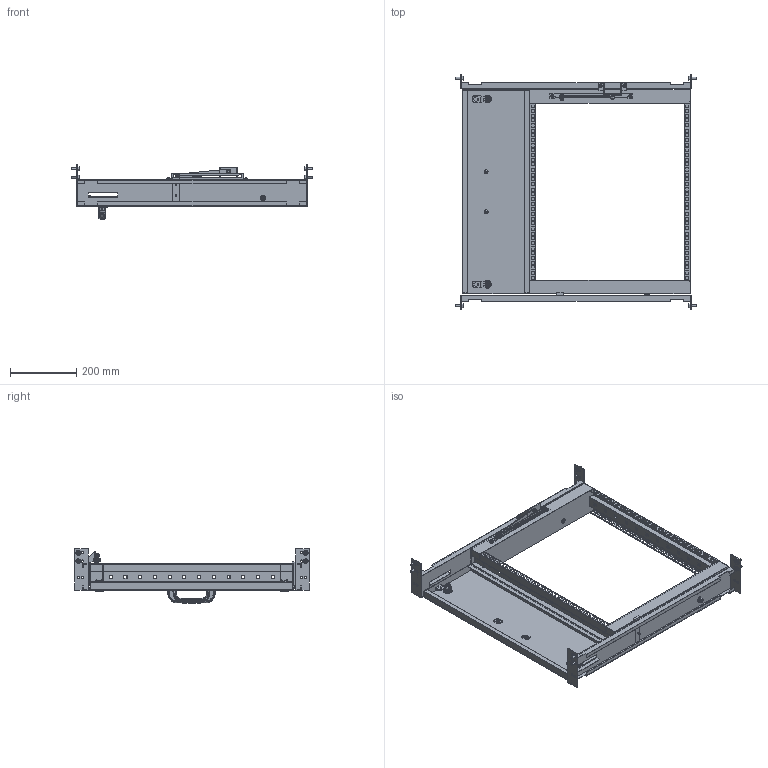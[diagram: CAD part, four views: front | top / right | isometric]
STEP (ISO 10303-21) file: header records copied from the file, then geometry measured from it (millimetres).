
FILE_DESCRIPTION(('Open CASCADE Model'),'2;1');
FILE_NAME('Open CASCADE Shape Model','2025-03-24T10:14:56',('Author'),( 'Open CASCADE'),'Open CASCADE STEP processor 7.8','Open CASCADE 7.8' ,'Unknown');
FILE_SCHEMA(('AUTOMOTIVE_DESIGN { 1 0 10303 214 1 1 1 1 }'));
Length unit declared in the file: millimetre
Products named in the file (32): Compound1; Compound2; Solid1; Solid2; Compound3; Solid3; Solid4; Solid5; Solid6; Solid7; Solid8; Solid9; Solid10; Solid11; Solid12; Solid13; Solid14; Solid15; Solid16; Solid17; Compound4; Solid18; Solid19; Solid20; Solid21; Compound5; Solid22; Solid23; Solid24; Solid25; Solid26; Solid27
Assembly tree (50 placements, depth 3):
  Compound1
    Compound2
      Solid1
      Solid2
    Compound3
      Solid3
      Solid2
    Solid4  x2
    Solid5  x2
    Solid6
    Solid7
    Solid8
    Solid9
    Solid10
    Solid11  x2
    Solid12  x4
    Solid13  x8
    Solid14
    Solid15
    Solid16  x2
    Solid17  x2
    Compound4
      Solid18
      Solid19
    Solid20
    Solid21
    Compound5
      Solid22  x2
      Solid23
      Solid24  x2
      Solid25
      Solid26  x2
      Solid27
Bounding box: 726 x 707.5 x 165 mm (x, y, z)
Volume: 1341209 mm3; surface area: 1635988.7 mm2
Topology: 48 solids, 66 shells, 4239 faces, 11502 edges, 7353 vertices
Faces by surface type: plane 2152, cylinder 724, bspline 670, cone 439, torus 176, sphere 78
Entity records: 114936 total; most frequent: CARTESIAN_POINT 46626, ORIENTED_EDGE 15144, DIRECTION 12256, EDGE_CURVE 7742, VERTEX_POINT 4951, LINE 4228, VECTOR 4228, AXIS2_PLACEMENT_3D 4014
